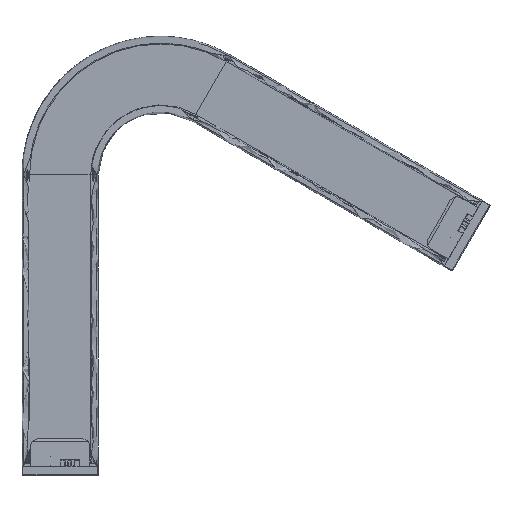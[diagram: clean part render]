
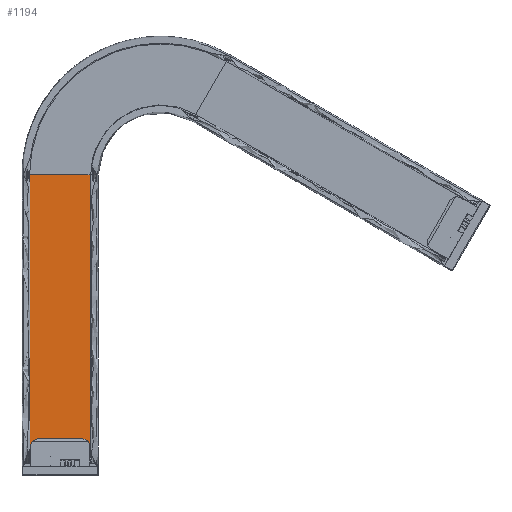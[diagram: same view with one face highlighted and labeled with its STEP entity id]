
A CAD part, top view. The second image highlights one B-rep face of the part: STEP entity #1194.
In plain terms, the highlighted free-form (B-spline) face has degree [1, 3] with [2, 4] control points.
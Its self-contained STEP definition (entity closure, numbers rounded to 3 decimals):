
#1194=ADVANCED_FACE('',(#3116),#68524,.T.);
#3116=FACE_OUTER_BOUND('',#5081,.T.);
#5081=EDGE_LOOP('',(#11620,#11621,#11622,#11623));
#11620=ORIENTED_EDGE('',*,*,#46832,.T.);
#11621=ORIENTED_EDGE('',*,*,#46833,.T.);
#11622=ORIENTED_EDGE('',*,*,#46822,.F.);
#11623=ORIENTED_EDGE('',*,*,#46834,.T.);
#23341=PCURVE('',#68521,#33853);
#23353=PCURVE('',#68524,#33865);
#23354=PCURVE('',#68524,#33866);
#23355=PCURVE('',#68524,#33867);
#23356=PCURVE('',#68524,#33868);
#23359=PCURVE('',#68525,#33871);
#23368=PCURVE('',#68527,#33880);
#23392=PCURVE('',#68533,#33904);
#33853=DEFINITIONAL_REPRESENTATION('',(#56867),#170346);
#33865=DEFINITIONAL_REPRESENTATION('',(#56889),#170346);
#33866=DEFINITIONAL_REPRESENTATION('',(#56891),#170346);
#33867=DEFINITIONAL_REPRESENTATION('',(#56892),#170346);
#33868=DEFINITIONAL_REPRESENTATION('',(#56894),#170346);
#33871=DEFINITIONAL_REPRESENTATION('',(#56899),#170346);
#33880=DEFINITIONAL_REPRESENTATION('',(#56913),#170346);
#33904=DEFINITIONAL_REPRESENTATION('',(#56945),#170346);
#41566=SURFACE_CURVE('',#56866,(#23341,#23355),.PCURVE_S1.);
#41576=SURFACE_CURVE('',#56888,(#23353,#23359),.PCURVE_S1.);
#41577=SURFACE_CURVE('',#56890,(#23354,#23368),.PCURVE_S1.);
#41578=SURFACE_CURVE('',#56893,(#23356,#23392),.PCURVE_S1.);
#46822=EDGE_CURVE('',#65617,#65609,#41566,.T.);
#46832=EDGE_CURVE('',#65619,#65612,#41576,.T.);
#46833=EDGE_CURVE('',#65612,#65609,#41577,.T.);
#46834=EDGE_CURVE('',#65617,#65619,#41578,.T.);
#56866=B_SPLINE_CURVE_WITH_KNOTS('',3,(#128475,#128476,#128477,#128478),
 .UNSPECIFIED.,.F.,.F.,(4,4),(8.,210.),.UNSPECIFIED.);
#56867=B_SPLINE_CURVE_WITH_KNOTS('',1,(#128479,#128480),.UNSPECIFIED.,.F.,
 .F.,(2,2),(8.,210.),.UNSPECIFIED.);
#56888=B_SPLINE_CURVE_WITH_KNOTS('',3,(#128561,#128562,#128563,#128564),
 .UNSPECIFIED.,.F.,.F.,(4,4),(8.,210.),.UNSPECIFIED.);
#56889=B_SPLINE_CURVE_WITH_KNOTS('',1,(#128565,#128566),.UNSPECIFIED.,.F.,
 .F.,(2,2),(8.,210.),.UNSPECIFIED.);
#56890=B_SPLINE_CURVE_WITH_KNOTS('',1,(#128567,#128568),.UNSPECIFIED.,.F.,
 .F.,(2,2),(-51.,0.),.UNSPECIFIED.);
#56891=B_SPLINE_CURVE_WITH_KNOTS('',1,(#128569,#128570),.UNSPECIFIED.,.F.,
 .F.,(2,2),(-51.,0.),.UNSPECIFIED.);
#56892=B_SPLINE_CURVE_WITH_KNOTS('',1,(#128571,#128572),.UNSPECIFIED.,.F.,
 .F.,(2,2),(8.,210.),.UNSPECIFIED.);
#56893=B_SPLINE_CURVE_WITH_KNOTS('',1,(#128573,#128574),.UNSPECIFIED.,.F.,
 .F.,(2,2),(0.,51.),.UNSPECIFIED.);
#56894=B_SPLINE_CURVE_WITH_KNOTS('',1,(#128575,#128576),.UNSPECIFIED.,.F.,
 .F.,(2,2),(0.,51.),.UNSPECIFIED.);
#56899=B_SPLINE_CURVE_WITH_KNOTS('',1,(#128587,#128588),.UNSPECIFIED.,.F.,
 .F.,(2,2),(8.,210.),.UNSPECIFIED.);
#56913=B_SPLINE_CURVE_WITH_KNOTS('',1,(#128632,#128633),.UNSPECIFIED.,.F.,
 .F.,(2,2),(-51.,0.),.UNSPECIFIED.);
#56945=B_SPLINE_CURVE_WITH_KNOTS('',1,(#128717,#128718),.UNSPECIFIED.,.F.,
 .F.,(2,2),(0.,51.),.UNSPECIFIED.);
#65609=VERTEX_POINT('',#128459);
#65612=VERTEX_POINT('',#128462);
#65617=VERTEX_POINT('',#128467);
#65619=VERTEX_POINT('',#128469);
#68521=B_SPLINE_SURFACE_WITH_KNOTS('',1,3,((#128235,#128236,#128237,#128238),
(#128239,#128240,#128241,#128242)),.UNSPECIFIED.,.F.,.F.,.F.,(2,2),(4,4),
(103.2,104.4),(0.,210.),.UNSPECIFIED.);
#68524=B_SPLINE_SURFACE_WITH_KNOTS('',1,3,((#128289,#128290,#128291,#128292),
(#128293,#128294,#128295,#128296)),.UNSPECIFIED.,.F.,.F.,.F.,(2,2),(4,4),
(0.,51.),(0.,210.),.UNSPECIFIED.);
#68525=B_SPLINE_SURFACE_WITH_KNOTS('',1,3,((#128297,#128298,#128299,#128300),
(#128301,#128302,#128303,#128304)),.UNSPECIFIED.,.F.,.F.,.F.,(2,2),(4,4),
(51.,52.2),(0.,210.),.UNSPECIFIED.);
#68527=B_SPLINE_SURFACE_WITH_KNOTS('',1,3,((#128313,#128314,#128315,#128316,
#128317,#128318,#128319,#128320,#128321,#128322,#128323,#128324,#128325,
#128326,#128327,#128328,#128329,#128330,#128331),(#128332,#128333,#128334,
#128335,#128336,#128337,#128338,#128339,#128340,#128341,#128342,#128343,
#128344,#128345,#128346,#128347,#128348,#128349,#128350)),.UNSPECIFIED.,
 .F.,.F.,.F.,(2,2),(4,1,1,1,1,1,1,1,1,1,1,1,1,1,1,1,4),(0.,51.),(0.,12.696,
25.724,38.982,52.36,65.737,78.996,
92.024,104.72,117.415,130.443,143.702,
157.08,170.457,183.716,196.744,209.439),
 .UNSPECIFIED.);
#68533=B_SPLINE_SURFACE_WITH_KNOTS('',1,1,((#128451,#128452),(#128453,#128454)),
 .UNSPECIFIED.,.F.,.F.,.F.,(2,2),(2,2),(0.,57.33),(65.,114.),
 .UNSPECIFIED.);
#128235=CARTESIAN_POINT('',(-23.,0.,61.937));
#128236=CARTESIAN_POINT('',(-23.,70.,61.937));
#128237=CARTESIAN_POINT('',(-23.,140.,61.937));
#128238=CARTESIAN_POINT('',(-23.,210.,61.937));
#128239=CARTESIAN_POINT('',(-23.,0.,62.937));
#128240=CARTESIAN_POINT('',(-23.,70.,62.937));
#128241=CARTESIAN_POINT('',(-23.,140.,62.937));
#128242=CARTESIAN_POINT('',(-23.,210.,62.937));
#128289=CARTESIAN_POINT('',(-23.,0.,62.937));
#128290=CARTESIAN_POINT('',(-23.,70.,62.937));
#128291=CARTESIAN_POINT('',(-23.,140.,62.937));
#128292=CARTESIAN_POINT('',(-23.,210.,62.937));
#128293=CARTESIAN_POINT('',(23.,0.,62.937));
#128294=CARTESIAN_POINT('',(23.,70.,62.937));
#128295=CARTESIAN_POINT('',(23.,140.,62.937));
#128296=CARTESIAN_POINT('',(23.,210.,62.937));
#128297=CARTESIAN_POINT('',(23.,0.,62.937));
#128298=CARTESIAN_POINT('',(23.,70.,62.937));
#128299=CARTESIAN_POINT('',(23.,140.,62.937));
#128300=CARTESIAN_POINT('',(23.,210.,62.937));
#128301=CARTESIAN_POINT('',(23.,0.,61.937));
#128302=CARTESIAN_POINT('',(23.,70.,61.937));
#128303=CARTESIAN_POINT('',(23.,140.,61.937));
#128304=CARTESIAN_POINT('',(23.,210.,61.937));
#128313=CARTESIAN_POINT('',(-23.,210.,62.937));
#128314=CARTESIAN_POINT('',(-23.,214.041,62.937));
#128315=CARTESIAN_POINT('',(-22.479,222.23,62.937));
#128316=CARTESIAN_POINT('',(-20.105,234.437,62.937));
#128317=CARTESIAN_POINT('',(-16.082,246.435,62.937));
#128318=CARTESIAN_POINT('',(-10.452,257.893,62.937));
#128319=CARTESIAN_POINT('',(-3.345,268.497,62.937));
#128320=CARTESIAN_POINT('',(5.034,277.98,62.937));
#128321=CARTESIAN_POINT('',(14.419,286.14,62.937));
#128322=CARTESIAN_POINT('',(24.621,292.928,62.937));
#128323=CARTESIAN_POINT('',(35.602,298.37,62.937));
#128324=CARTESIAN_POINT('',(47.36,302.417,62.937));
#128325=CARTESIAN_POINT('',(59.762,304.932,62.937));
#128326=CARTESIAN_POINT('',(72.5,305.785,62.937));
#128327=CARTESIAN_POINT('',(85.238,304.932,62.937));
#128328=CARTESIAN_POINT('',(97.639,302.417,62.937));
#128329=CARTESIAN_POINT('',(109.398,298.37,62.937));
#128330=CARTESIAN_POINT('',(116.75,294.726,62.937));
#128331=CARTESIAN_POINT('',(120.25,292.705,62.937));
#128332=CARTESIAN_POINT('',(23.,210.,62.937));
#128333=CARTESIAN_POINT('',(23.,212.095,62.937));
#128334=CARTESIAN_POINT('',(23.27,216.339,62.937));
#128335=CARTESIAN_POINT('',(24.5,222.666,62.937));
#128336=CARTESIAN_POINT('',(26.586,228.885,62.937));
#128337=CARTESIAN_POINT('',(29.504,234.824,62.937));
#128338=CARTESIAN_POINT('',(33.188,240.321,62.937));
#128339=CARTESIAN_POINT('',(37.531,245.236,62.937));
#128340=CARTESIAN_POINT('',(42.395,249.465,62.937));
#128341=CARTESIAN_POINT('',(47.683,252.984,62.937));
#128342=CARTESIAN_POINT('',(53.375,255.804,62.937));
#128343=CARTESIAN_POINT('',(59.47,257.902,62.937));
#128344=CARTESIAN_POINT('',(65.898,259.206,62.937));
#128345=CARTESIAN_POINT('',(72.5,259.648,62.937));
#128346=CARTESIAN_POINT('',(79.102,259.206,62.937));
#128347=CARTESIAN_POINT('',(85.53,257.902,62.937));
#128348=CARTESIAN_POINT('',(91.625,255.804,62.937));
#128349=CARTESIAN_POINT('',(95.436,253.916,62.937));
#128350=CARTESIAN_POINT('',(97.25,252.868,62.937));
#128451=CARTESIAN_POINT('',(24.5,8.,10.877));
#128452=CARTESIAN_POINT('',(-24.5,8.,10.877));
#128453=CARTESIAN_POINT('',(24.5,8.,68.207));
#128454=CARTESIAN_POINT('',(-24.5,8.,68.207));
#128459=CARTESIAN_POINT('',(-23.,210.,62.937));
#128462=CARTESIAN_POINT('',(23.,210.,62.937));
#128467=CARTESIAN_POINT('',(-23.,8.,62.937));
#128469=CARTESIAN_POINT('',(23.,8.,62.937));
#128475=CARTESIAN_POINT('',(-23.,8.,62.937));
#128476=CARTESIAN_POINT('',(-23.,75.333,62.937));
#128477=CARTESIAN_POINT('',(-23.,142.667,62.937));
#128478=CARTESIAN_POINT('',(-23.,210.,62.937));
#128479=CARTESIAN_POINT('',(104.4,8.));
#128480=CARTESIAN_POINT('',(104.4,210.));
#128561=CARTESIAN_POINT('',(23.,8.,62.937));
#128562=CARTESIAN_POINT('',(23.,75.333,62.937));
#128563=CARTESIAN_POINT('',(23.,142.667,62.937));
#128564=CARTESIAN_POINT('',(23.,210.,62.937));
#128565=CARTESIAN_POINT('',(51.,8.));
#128566=CARTESIAN_POINT('',(51.,210.));
#128567=CARTESIAN_POINT('',(23.,210.,62.937));
#128568=CARTESIAN_POINT('',(-23.,210.,62.937));
#128569=CARTESIAN_POINT('',(51.,210.));
#128570=CARTESIAN_POINT('',(0.,210.));
#128571=CARTESIAN_POINT('',(0.,8.));
#128572=CARTESIAN_POINT('',(0.,210.));
#128573=CARTESIAN_POINT('',(-23.,8.,62.937));
#128574=CARTESIAN_POINT('',(23.,8.,62.937));
#128575=CARTESIAN_POINT('',(0.,8.));
#128576=CARTESIAN_POINT('',(51.,8.));
#128587=CARTESIAN_POINT('',(51.,8.));
#128588=CARTESIAN_POINT('',(51.,210.));
#128632=CARTESIAN_POINT('',(51.,0.));
#128633=CARTESIAN_POINT('',(0.,0.));
#128717=CARTESIAN_POINT('',(52.06,112.5));
#128718=CARTESIAN_POINT('',(52.06,66.5));
#170346=(
GEOMETRIC_REPRESENTATION_CONTEXT(2)
PARAMETRIC_REPRESENTATION_CONTEXT()
REPRESENTATION_CONTEXT('pspace','')
);
